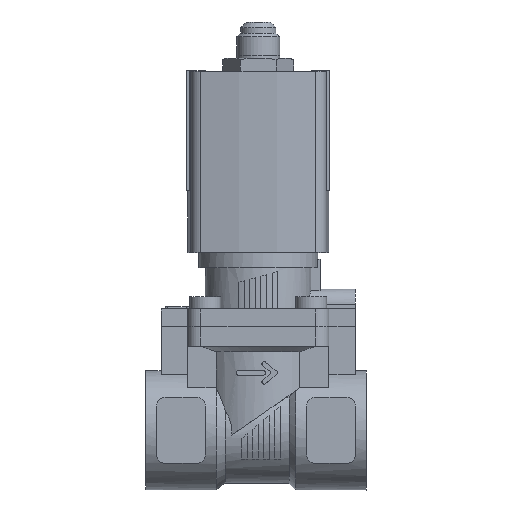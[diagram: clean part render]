
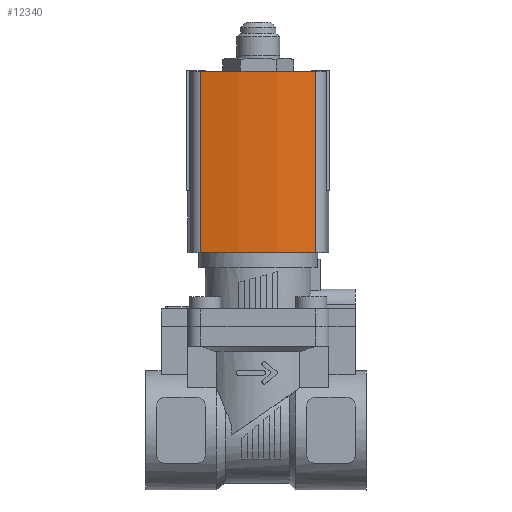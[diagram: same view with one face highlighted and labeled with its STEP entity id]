
A CAD part, top view. The second image highlights one B-rep face of the part: STEP entity #12340.
In plain terms, the highlighted cylindrical face has radius 60 mm (diameter 120 mm), a partial arc.
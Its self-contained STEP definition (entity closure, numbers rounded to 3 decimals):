
#221=CYLINDRICAL_SURFACE('',#13172,60.);
#1189=LINE('',#18835,#2239);
#1190=LINE('',#18839,#2240);
#2239=VECTOR('',#15619,1000.);
#2240=VECTOR('',#15624,1000.);
#4490=ORIENTED_EDGE('',*,*,#6464,.T.);
#4491=ORIENTED_EDGE('',*,*,#6465,.F.);
#4492=ORIENTED_EDGE('',*,*,#5750,.F.);
#4493=ORIENTED_EDGE('',*,*,#6463,.T.);
#5750=EDGE_CURVE('',#6981,#6982,#7700,.T.);
#6463=EDGE_CURVE('',#6981,#7487,#1189,.T.);
#6464=EDGE_CURVE('',#7487,#7488,#7794,.T.);
#6465=EDGE_CURVE('',#6982,#7488,#1190,.T.);
#6981=VERTEX_POINT('',#17489);
#6982=VERTEX_POINT('',#17491);
#7487=VERTEX_POINT('',#18834);
#7488=VERTEX_POINT('',#18838);
#7700=CIRCLE('',#12952,60.);
#7794=CIRCLE('',#13173,60.);
#8209=EDGE_LOOP('',(#4490,#4491,#4492,#4493));
#8786=FACE_BOUND('',#8209,.T.);
#12340=ADVANCED_FACE('',(#8786),#221,.T.);
#12952=AXIS2_PLACEMENT_3D('',#17490,#14560,#14561);
#13172=AXIS2_PLACEMENT_3D('',#18836,#15620,#15621);
#13173=AXIS2_PLACEMENT_3D('',#18837,#15622,#15623);
#14560=DIRECTION('',(0.,1.,0.));
#14561=DIRECTION('',(1.,0.,0.));
#15619=DIRECTION('',(0.,-1.,0.));
#15620=DIRECTION('',(0.,-1.,0.));
#15621=DIRECTION('',(0.,0.,-1.));
#15622=DIRECTION('',(0.,1.,0.));
#15623=DIRECTION('',(1.,0.,0.));
#15624=DIRECTION('',(0.,-1.,0.));
#17489=CARTESIAN_POINT('',(19.078,15.,12.986));
#17490=CARTESIAN_POINT('',(-39.5,15.,0.));
#17491=CARTESIAN_POINT('',(19.078,15.,-12.986));
#18834=CARTESIAN_POINT('',(19.078,-26.,12.986));
#18835=CARTESIAN_POINT('',(19.078,15.,12.986));
#18836=CARTESIAN_POINT('',(-39.5,15.,0.));
#18837=CARTESIAN_POINT('',(-39.5,-26.,0.));
#18838=CARTESIAN_POINT('',(19.078,-26.,-12.986));
#18839=CARTESIAN_POINT('',(19.078,15.,-12.986));
